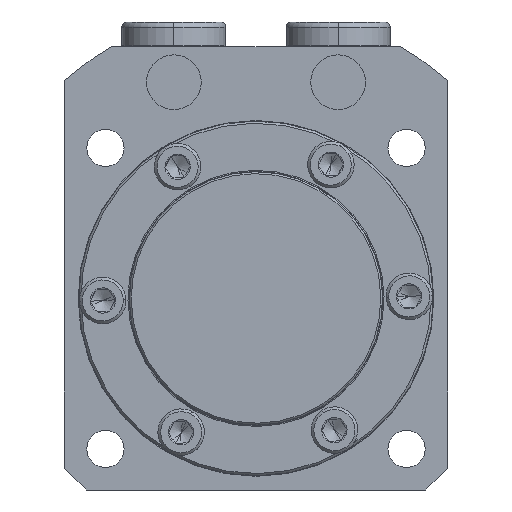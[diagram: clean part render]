
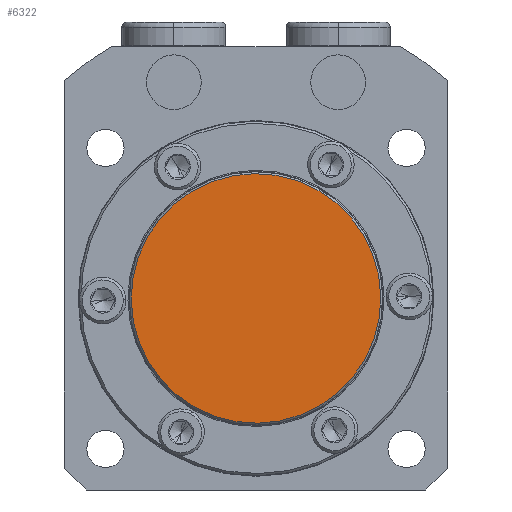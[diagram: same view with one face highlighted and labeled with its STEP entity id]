
A CAD part, front view. The second image highlights one B-rep face of the part: STEP entity #6322.
In plain terms, the highlighted planar face has unit normal (0, -1, 0).
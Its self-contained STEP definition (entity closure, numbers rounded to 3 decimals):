
#416 = CARTESIAN_POINT ( 'NONE',  ( 0., -10.5, -22.8 ) ) ;
#438 = CARTESIAN_POINT ( 'NONE',  ( 0., -10.5, 22.8 ) ) ;
#848 = CARTESIAN_POINT ( 'NONE',  ( 0., -10.5, 0. ) ) ;
#849 = DIRECTION ( 'NONE',  ( 0., -1., 0. ) ) ;
#850 = DIRECTION ( 'NONE',  ( 0., 0., -1. ) ) ;
#2008 = CARTESIAN_POINT ( 'NONE',  ( 0., -10.5, 0. ) ) ;
#2051 = FACE_OUTER_BOUND ( 'NONE', #3628, .T. ) ;
#2053 = PLANE ( 'NONE',  #2865 ) ;
#2058 = DIRECTION ( 'NONE',  ( 0., -1., 0. ) ) ;
#2060 = DIRECTION ( 'NONE',  ( 0., 0., -1. ) ) ;
#2865 = AXIS2_PLACEMENT_3D ( 'NONE', #2008, #2058, #2060 ) ;
#3116 = CIRCLE ( 'NONE', #3123, 22.8 ) ;
#3123 = AXIS2_PLACEMENT_3D ( 'NONE', #5717, #5718, #5719 ) ;
#3628 = EDGE_LOOP ( 'NONE', ( #3938, #3939 ) ) ;
#3938 = ORIENTED_EDGE ( 'NONE', *, *, #7485, .T. ) ;
#3939 = ORIENTED_EDGE ( 'NONE', *, *, #6946, .T. ) ;
#4982 = VERTEX_POINT ( 'NONE', #416 ) ;
#4988 = VERTEX_POINT ( 'NONE', #438 ) ;
#5717 = CARTESIAN_POINT ( 'NONE',  ( 0., -10.5, 0. ) ) ;
#5718 = DIRECTION ( 'NONE',  ( 0., -1., 0. ) ) ;
#5719 = DIRECTION ( 'NONE',  ( 0., 0., -1. ) ) ;
#6322 = ADVANCED_FACE ( 'NONE', ( #2051 ), #2053, .T. ) ;
#6946 = EDGE_CURVE ( 'NONE', #4982, #4988, #3116, .T. ) ;
#7163 = CIRCLE ( 'NONE', #7169, 22.8 ) ;
#7169 = AXIS2_PLACEMENT_3D ( 'NONE', #848, #849, #850 ) ;
#7485 = EDGE_CURVE ( 'NONE', #4988, #4982, #7163, .T. ) ;
